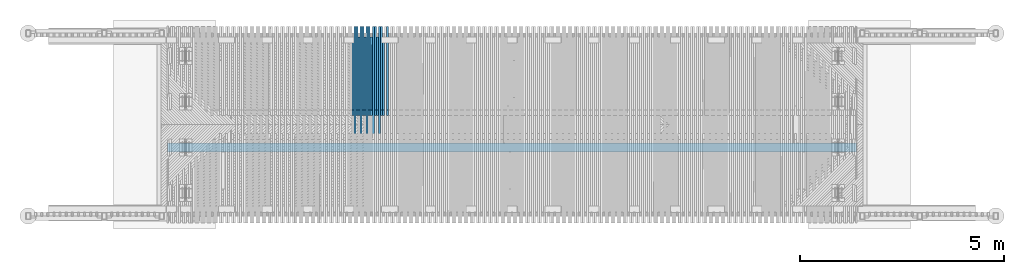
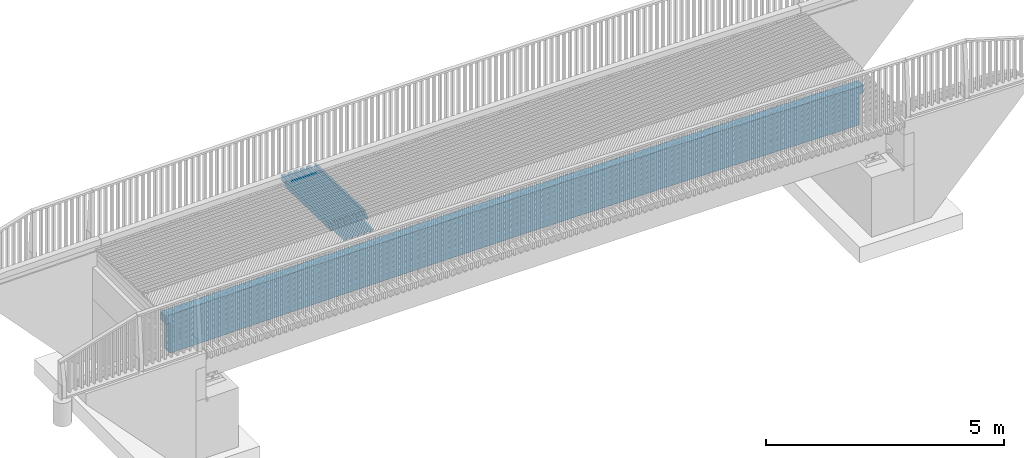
# One storey, part 25 of 47: 18 beams.
"""IFC2X3 building model written with IfcOpenShell, lengths in millimetres."""

import ifcopenshell
import ifcopenshell.guid

model = None  # the IFC model being written
_history = None  # IfcOwnerHistory: only IFC2X3 demands one
_inside = {}  # id of a spatial element -> (the spatial element, [elements in it])
_under = {}  # id of a project, library or spatial element -> (it, [spatial elements below it])
_declared = {}  # id of a project -> (the project, [libraries it declares])
_typed = {}  # id of a type object -> (the type object, [elements of that type])
_made_of = {}  # id of a material, layer set ... -> (it, [elements and type objects made of it])


def new_model(schema):
    """Start an empty IFC model of exactly this schema.

    Asked for "IFC4X3", IfcOpenShell would pick the latest addendum, in which some entities
    have other attributes; the version numbers below select the first issue.
    IFC2X3 requires an IfcOwnerHistory on every rooted entity: one is made here for all.
    """
    global model, _history
    if schema == "IFC4X3":
        model = ifcopenshell.file(schema_version=(4, 3, 0, 0))
    else:
        model = ifcopenshell.file(schema=schema)
    _inside.clear()
    _under.clear()
    _declared.clear()
    _typed.clear()
    _made_of.clear()
    _history = None
    if model.schema == "IFC2X3":
        org = make("IfcOrganization", Name="unknown")
        user = make(
            "IfcPersonAndOrganization",
            ThePerson=make("IfcPerson", FamilyName="unknown"),
            TheOrganization=org,
        )
        app = make(
            "IfcApplication",
            ApplicationDeveloper=org,
            Version="unknown",
            ApplicationFullName="unknown",
            ApplicationIdentifier="unknown",
        )
        _history = make(
            "IfcOwnerHistory",
            OwningUser=user,
            OwningApplication=app,
            ChangeAction="ADDED",
            CreationDate=0,
        )
    return model


def make(cls, **values):
    """One entity of the class cls with the attributes given. An attribute that is None is left unset."""
    return model.create_entity(
        cls, **{name: value for name, value in values.items() if value is not None}
    )


def rooted(cls, **values):
    """An entity with a GlobalId (a new one), such as an element, a storey or a relation."""
    return make(cls, GlobalId=ifcopenshell.guid.new(), OwnerHistory=_history, **values)


def si_unit(unit_type, name, prefix=None):
    """IfcSIUnit, for example si_unit("LENGTHUNIT", "METRE", prefix="MILLI")."""
    return make("IfcSIUnit", UnitType=unit_type, Prefix=prefix, Name=name)


def assignment(units):
    """IfcUnitAssignment: the units of a project."""
    return None if units is None else make("IfcUnitAssignment", Units=units)


def point(xyz):
    """IfcCartesianPoint."""
    return None if xyz is None else make("IfcCartesianPoint", Coordinates=xyz)


def direction(xyz):
    """IfcDirection."""
    return None if xyz is None else make("IfcDirection", DirectionRatios=xyz)


def frame(location, z_axis=None, x_axis=None):
    """IfcAxis2Placement3D, a coordinate frame: its origin and axes. An axis left out is left unset."""
    return make(
        "IfcAxis2Placement3D",
        Location=point(location),
        Axis=direction(z_axis),
        RefDirection=direction(x_axis),
    )


def origin_with_axes():
    """The frame at (0, 0, 0) with the z axis (0, 0, 1) and the x axis (1, 0, 0) written out."""
    return frame((0.0, 0.0, 0.0), z_axis=(0.0, 0.0, 1.0), x_axis=(1.0, 0.0, 0.0))


def place(relative_to, where):
    """IfcLocalPlacement: puts the frame where relative to a parent placement (None: the world)."""
    return make(
        "IfcLocalPlacement", PlacementRelTo=relative_to, RelativePlacement=where
    )


def context(
    kind, dimensions, precision=None, world=None, true_north=None, identifier=None
):
    """IfcGeometricRepresentationContext, for example the 3D "Model" context."""
    return make(
        "IfcGeometricRepresentationContext",
        ContextIdentifier=identifier,
        ContextType=kind,
        CoordinateSpaceDimension=dimensions,
        Precision=precision,
        WorldCoordinateSystem=world,
        TrueNorth=true_north,
    )


def subcontext(parent, identifier, kind, view, scale=None):
    """IfcGeometricRepresentationSubContext, for example "Body" below "Model"."""
    return make(
        "IfcGeometricRepresentationSubContext",
        ContextIdentifier=identifier,
        ContextType=kind,
        ParentContext=parent,
        TargetScale=scale,
        TargetView=view,
    )


def project(units=None, contexts=None):
    """IfcProject with its units and contexts."""
    return rooted(
        "IfcProject",
        Name="project",
        RepresentationContexts=contexts,
        UnitsInContext=assignment(units),
    )


def spatial(cls, under=None, at=None, **own):
    """A site, building, storey or space (cls), placed at a placement, below another one or the project."""
    s = rooted(cls, ObjectPlacement=at, **own)
    if under is not None:
        _under.setdefault(under.id(), (under, []))[1].append(s)
    return s


def faces_of(points, faces, orient=None, outer=None):
    """IfcFace entities. A face is a list of loops; a loop is a list of indices into points, from 0.

    orient and outer hold one flag for each loop. By default every Orientation is true, the
    first loop of a face is its IfcFaceOuterBound and the others are IfcFaceBound.
    """
    made = []
    for i, loops in enumerate(faces):
        bounds = []
        for j, loop in enumerate(loops):
            is_outer = j == 0 if outer is None else outer[i][j]
            bounds.append(
                make(
                    "IfcFaceOuterBound" if is_outer else "IfcFaceBound",
                    Bound=make("IfcPolyLoop", Polygon=[points[k] for k in loop]),
                    Orientation=True if orient is None else orient[i][j],
                )
            )
        made.append(make("IfcFace", Bounds=bounds))
    return made


def faceted_brep(points, faces, orient=None, outer=None, voids=None):
    """IfcFacetedBrep: a solid bounded by flat faces; with voids (closed shells), ...WithVoids."""
    shared = [point(p) for p in points]
    hull = make("IfcClosedShell", CfsFaces=faces_of(shared, faces, orient, outer))
    if voids is None:
        return make("IfcFacetedBrep", Outer=hull)
    return make(
        "IfcFacetedBrepWithVoids",
        Outer=hull,
        Voids=[
            make(cls, CfsFaces=faces_of(shared, fs, o, b)) for cls, fs, o, b in voids
        ],
    )


def shape(context_of_items, identifier, shape_type, items):
    """IfcShapeRepresentation: the items that make up one representation, for example the "Body"."""
    return make(
        "IfcShapeRepresentation",
        ContextOfItems=context_of_items,
        RepresentationIdentifier=identifier,
        RepresentationType=shape_type,
        Items=items,
    )


def material(Name=None, Category=None):
    """IfcMaterial."""
    return make("IfcMaterial", Name=Name, Category=Category)


def made_of(thing, what):
    """Note that an element or type object is made of a material, layer set ...; save() writes the relation."""
    if what is not None:
        _made_of.setdefault(what.id(), (what, []))[1].append(thing)
    return thing


def type_object(cls, material=None, **own):
    """A type object (cls), such as IfcWallType, which elements share."""
    return made_of(rooted(cls, **own), material)


def element(
    cls,
    number,
    at=None,
    inside=None,
    cuts=None,
    type_object=None,
    material=None,
    context=None,
    identifier="Body",
    shape_type=None,
    held_by="IfcProductDefinitionShape",
    body=None,
    shapes=None,
    **own,
):
    """One element of the class cls, such as IfcWall. Its Tag is "e" and its number.

    at: its placement. inside: the storey or other place that contains it. cuts: it is an
    opening in that element (IfcRelVoidsElement). A single representation is given by context,
    identifier, shape_type and body (its items); several are given by shapes. held_by: the class
    of the entity that holds the representations. save() writes the other relations.
    """
    e = rooted(cls, Tag="e%d" % number, ObjectPlacement=at, **own)
    if body is not None:
        shapes = [shape(context, identifier, shape_type, body)]
    if shapes is not None:
        e.Representation = make(held_by, Representations=shapes)
    if inside is not None:
        _inside.setdefault(inside.id(), (inside, []))[1].append(e)
    if cuts is not None:
        rooted(
            "IfcRelVoidsElement", RelatingBuildingElement=cuts, RelatedOpeningElement=e
        )
    if type_object is not None:
        _typed.setdefault(type_object.id(), (type_object, []))[1].append(e)
    return made_of(e, material)


def aggregate(whole, parts):
    """IfcRelAggregates: a whole, such as a stair, and the parts it consists of."""
    return rooted("IfcRelAggregates", RelatingObject=whole, RelatedObjects=parts)


def save(model, path):
    """Write the relations noted so far, then the file.

    IfcRelAggregates (storeys below a building ...), IfcRelContainedInSpatialStructure (elements
    in a storey), IfcRelDefinesByType, IfcRelAssociatesMaterial and IfcRelDeclares: one each for
    every whole, place, type object, material and project.
    """
    for whole, parts in _under.values():
        aggregate(whole, parts)
    for where, things in _inside.values():
        rooted(
            "IfcRelContainedInSpatialStructure",
            RelatedElements=things,
            RelatingStructure=where,
        )
    for kind, things in _typed.values():
        rooted("IfcRelDefinesByType", RelatedObjects=things, RelatingType=kind)
    for what, things in _made_of.values():
        rooted("IfcRelAssociatesMaterial", RelatedObjects=things, RelatingMaterial=what)
    for by, libraries in _declared.values():
        rooted("IfcRelDeclares", RelatingContext=by, RelatedDefinitions=libraries)
    model.write(path)


model = new_model("IFC2X3")

# Units and contexts
model_context = context("Model", 3, precision=1e-05, world=origin_with_axes())
body_context = subcontext(model_context, "Body", "Model", "MODEL_VIEW")
ifc_project = project(units=[si_unit("LENGTHUNIT", "METRE", prefix="MILLI"), si_unit("AREAUNIT", "SQUARE_METRE"), si_unit("VOLUMEUNIT", "CUBIC_METRE"), si_unit("MASSUNIT", "GRAM", prefix="KILO"), si_unit("TIMEUNIT", "SECOND"), si_unit("PLANEANGLEUNIT", "RADIAN"), si_unit("SOLIDANGLEUNIT", "STERADIAN"), si_unit("THERMODYNAMICTEMPERATUREUNIT", "DEGREE_CELSIUS"), si_unit("LUMINOUSINTENSITYUNIT", "LUMEN")], contexts=[model_context])

# Site, building, storey
site_placement = place(None, origin_with_axes())
site = spatial("IfcSite", under=ifc_project, at=site_placement, Name="Undefined", CompositionType="ELEMENT")
building_placement = place(site_placement, origin_with_axes())
building = spatial("IfcBuilding", under=site, at=building_placement, Name="Undefined", CompositionType="ELEMENT")
storey_placement = place(building_placement, origin_with_axes())
storey = spatial("IfcBuildingStorey", under=building, at=storey_placement, Name="Undefined", CompositionType="ELEMENT", Elevation=0.0)

# Beams
ifc_material = material(Name="TIMBER/Timber_Undefined")
beam_type_1 = type_object("IfcBeamType", Name="150*50", PredefinedType="NOTDEFINED")
beam_1_placement = place(storey_placement, frame((4199.27249879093, 64771.4438078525, 3075.98999491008), z_axis=(-0.00630998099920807, 0.0199960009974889, 0.99978014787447), x_axis=(-0.000126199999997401, -0.999800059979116, 0.0199956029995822)))
element("IfcBeam", 1, at=beam_1_placement, inside=storey, type_object=beam_type_1, material=ifc_material, Name="BEAM", ObjectType="150*50", context=body_context, shape_type="Brep", body=[
    faceted_brep([(6.18456397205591e-09, -24.9999999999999, -75.0000000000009), (-6.1918399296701e-09, -24.9999999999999, 74.9999999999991), (-6.19911588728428e-09, 25.0, 75.0), (6.18456397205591e-09, 24.9999999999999, -75.0), (2186.42645864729, 25.0, -75.0), (2186.42645915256, -25.0000000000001, -75.0), (2047.96936034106, -25.0000000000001, 75.0), (2047.96935975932, 25.0, 75.0)], [[[0, 1, 2, 3]], [[0, 3, 4, 5]], [[1, 0, 5, 6]], [[2, 1, 6, 7]], [[3, 2, 7, 4]], [[6, 5, 4, 7]]]),
])
beam_2_placement = place(storey_placement, frame((4099.22195227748, 64513.4953923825, 3080.50903385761), z_axis=(-0.0064760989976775, 0.0199960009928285, 0.999779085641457), x_axis=(-0.000129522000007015, -0.999800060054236, 0.0199955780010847)))
element("IfcBeam", 2, at=beam_2_placement, inside=storey, type_object=beam_type_1, material=ifc_material, Name="BEAM", ObjectType="150*50", context=body_context, shape_type="Brep", body=[
    faceted_brep([(6.18456397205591e-09, -24.9999999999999, -75.0000000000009), (-6.1918399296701e-09, -24.9999999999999, 74.9999999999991), (-6.19911588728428e-09, 25.0, 75.0), (6.18456397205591e-09, 24.9999999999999, -75.0), (1928.42646506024, 25.0, -75.0), (1928.4264649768, -24.9999999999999, -75.0), (1789.96936577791, -24.9999999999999, 75.0), (1789.96936586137, 25.0, 75.0000000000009)], [[[0, 1, 2, 3]], [[0, 3, 4, 5]], [[1, 0, 5, 6]], [[2, 1, 6, 7]], [[3, 2, 7, 4]], [[6, 5, 4, 7]]]),
])
beam_3_placement = place(storey_placement, frame((4149.23407481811, 64771.443807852, 3075.6733007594), z_axis=(-0.0064760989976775, 0.0199960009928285, 0.999779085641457), x_axis=(-0.000129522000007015, -0.999800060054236, 0.0199955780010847)))
element("IfcBeam", 3, at=beam_3_placement, inside=storey, type_object=beam_type_1, material=ifc_material, Name="BEAM", ObjectType="150*50", context=body_context, shape_type="Brep", body=[
    faceted_brep([(6.18456397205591e-09, -24.9999999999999, -75.0000000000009), (6.18456397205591e-09, 24.9999999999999, -75.0), (2633.00494983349, 25.0000000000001, -75.0000000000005), (2633.00495050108, -24.9999999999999, -75.0000000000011), (-6.1918399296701e-09, -24.9999999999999, 74.9999999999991), (-6.19911588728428e-09, 25.0, 75.0), (2408.42506497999, 24.9999999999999, 75.0), (2768.5924870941, 25.0, 60.5875375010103), (2768.59248707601, -25.0, 60.5875366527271), (2408.4250638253, -25.0, 74.9999999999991)], [[[0, 1, 2, 3]], [[0, 4, 5, 1]], [[2, 1, 5, 6, 7]], [[3, 2, 7, 8]], [[4, 0, 3, 8, 9]], [[5, 4, 9, 6]], [[8, 7, 6, 9]]]),
])
beam_4_placement = place(storey_placement, frame((4349.29838921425, 64771.4438078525, 3076.91856599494), z_axis=(-0.00606080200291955, 0.0199960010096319, 0.999781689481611), x_axis=(-0.000121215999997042, -0.999800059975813, 0.0199956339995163)))
element("IfcBeam", 4, at=beam_4_placement, inside=storey, type_object=beam_type_1, material=ifc_material, Name="BEAM", ObjectType="150*50", context=body_context, shape_type="Brep", body=[
    faceted_brep([(6.18456397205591e-09, -24.9999999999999, -75.0000000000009), (-6.1918399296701e-09, -24.9999999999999, 74.9999999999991), (-6.19911588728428e-09, 25.0, 75.0), (6.18456397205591e-09, 24.9999999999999, -75.0), (2186.42645864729, 25.0, -75.0), (2186.42645915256, -25.0000000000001, -75.0), (2047.96936034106, -25.0000000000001, 75.0), (2047.96935975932, 25.0, 75.0)], [[[0, 1, 2, 3]], [[0, 3, 4, 5]], [[1, 0, 5, 6]], [[2, 1, 6, 7]], [[3, 2, 7, 4]], [[6, 5, 4, 7]]]),
])
beam_5_placement = place(storey_placement, frame((4249.24897210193, 64513.4953923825, 3081.46254070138), z_axis=(-0.0062269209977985, 0.0199960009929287, 0.999780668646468), x_axis=(-0.000124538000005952, -0.999800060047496, 0.0199956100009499)))
element("IfcBeam", 5, at=beam_5_placement, inside=storey, type_object=beam_type_1, material=ifc_material, Name="BEAM", ObjectType="150*50", context=body_context, shape_type="Brep", body=[
    faceted_brep([(6.18456397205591e-09, -24.9999999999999, -75.0000000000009), (-6.1918399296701e-09, -24.9999999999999, 74.9999999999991), (-6.19911588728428e-09, 25.0, 75.0), (6.18456397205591e-09, 24.9999999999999, -75.0), (1928.42646506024, 25.0, -75.0), (1928.4264649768, -24.9999999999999, -75.0), (1789.96936577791, -24.9999999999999, 75.0), (1789.96936586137, 25.0, 75.0000000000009)], [[[0, 1, 2, 3]], [[0, 3, 4, 5]], [[1, 0, 5, 6]], [[2, 1, 6, 7]], [[3, 2, 7, 4]], [[6, 5, 4, 7]]]),
])
beam_6_placement = place(storey_placement, frame((4299.25988786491, 64771.443807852, 3076.61434308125), z_axis=(-0.0062269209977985, 0.0199960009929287, 0.999780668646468), x_axis=(-0.000124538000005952, -0.999800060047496, 0.0199956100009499)))
element("IfcBeam", 6, at=beam_6_placement, inside=storey, type_object=beam_type_1, material=ifc_material, Name="BEAM", ObjectType="150*50", context=body_context, shape_type="Brep", body=[
    faceted_brep([(6.18456397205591e-09, -24.9999999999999, -75.0000000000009), (6.18456397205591e-09, 24.9999999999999, -75.0), (2633.00494983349, 25.0000000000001, -75.0000000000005), (2633.00495050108, -24.9999999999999, -75.0000000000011), (-6.1918399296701e-09, -24.9999999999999, 74.9999999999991), (-6.19911588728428e-09, 25.0, 75.0), (2408.42506497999, 24.9999999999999, 75.0), (2768.5924870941, 25.0, 60.5875375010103), (2768.59248707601, -25.0, 60.5875366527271), (2408.4250638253, -25.0, 74.9999999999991)], [[[0, 1, 2, 3]], [[0, 4, 5, 1]], [[2, 1, 5, 6, 7]], [[3, 2, 7, 8]], [[4, 0, 3, 8, 9]], [[5, 4, 9, 6]], [[8, 7, 6, 9]]]),
])
beam_7_placement = place(storey_placement, frame((4499.32450640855, 64771.4438078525, 3077.80974564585), z_axis=(-0.00581162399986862, 0.0199960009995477, 0.999783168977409), x_axis=(-0.000116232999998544, -0.999800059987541, 0.0199956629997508)))
element("IfcBeam", 7, at=beam_7_placement, inside=storey, type_object=beam_type_1, material=ifc_material, Name="BEAM", ObjectType="150*50", context=body_context, shape_type="Brep", body=[
    faceted_brep([(6.18456397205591e-09, -24.9999999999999, -75.0000000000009), (-6.1918399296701e-09, -24.9999999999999, 74.9999999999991), (-6.19911588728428e-09, 25.0, 75.0), (6.18456397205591e-09, 24.9999999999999, -75.0), (2186.42645864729, 25.0, -75.0), (2186.42645915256, -25.0000000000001, -75.0), (2047.96936034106, -25.0000000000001, 75.0), (2047.96935975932, 25.0, 75.0)], [[[0, 1, 2, 3]], [[0, 3, 4, 5]], [[1, 0, 5, 6]], [[2, 1, 6, 7]], [[3, 2, 7, 4]], [[6, 5, 4, 7]]]),
])
beam_8_placement = place(storey_placement, frame((4399.27622491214, 64513.4953923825, 3082.378655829), z_axis=(-0.0059777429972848, 0.0199960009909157, 0.999782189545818), x_axis=(-0.000119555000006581, -0.999800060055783, 0.0199956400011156)))
element("IfcBeam", 8, at=beam_8_placement, inside=storey, type_object=beam_type_1, material=ifc_material, Name="BEAM", ObjectType="150*50", context=body_context, shape_type="Brep", body=[
    faceted_brep([(6.18456397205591e-09, -24.9999999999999, -75.0000000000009), (-6.1918399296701e-09, -24.9999999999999, 74.9999999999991), (-6.19911588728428e-09, 25.0, 75.0), (6.18456397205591e-09, 24.9999999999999, -75.0), (1928.42646506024, 25.0, -75.0), (1928.4264649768, -24.9999999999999, -75.0), (1789.96936577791, -24.9999999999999, 75.0), (1789.96936586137, 25.0, 75.0000000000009)], [[[0, 1, 2, 3]], [[0, 3, 4, 5]], [[1, 0, 5, 6]], [[2, 1, 6, 7]], [[3, 2, 7, 4]], [[6, 5, 4, 7]]]),
])
beam_9_placement = place(storey_placement, frame((4449.28593079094, 64771.443807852, 3077.51799398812), z_axis=(-0.0059777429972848, 0.0199960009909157, 0.999782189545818), x_axis=(-0.000119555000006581, -0.999800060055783, 0.0199956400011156)))
element("IfcBeam", 9, at=beam_9_placement, inside=storey, type_object=beam_type_1, material=ifc_material, Name="BEAM", ObjectType="150*50", context=body_context, shape_type="Brep", body=[
    faceted_brep([(6.18456397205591e-09, -24.9999999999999, -75.0000000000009), (6.18456397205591e-09, 24.9999999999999, -75.0), (2633.00494983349, 25.0000000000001, -75.0000000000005), (2633.00495050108, -24.9999999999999, -75.0000000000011), (-6.1918399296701e-09, -24.9999999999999, 74.9999999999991), (-6.19911588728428e-09, 25.0, 75.0), (2408.42506497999, 24.9999999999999, 75.0), (2768.5924870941, 25.0, 60.5875375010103), (2768.59248707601, -25.0, 60.5875366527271), (2408.4250638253, -25.0, 74.9999999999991)], [[[0, 1, 2, 3]], [[0, 4, 5, 1]], [[2, 1, 5, 6, 7]], [[3, 2, 7, 8]], [[4, 0, 3, 8, 9]], [[5, 4, 9, 6]], [[8, 7, 6, 9]]]),
])
beam_10_placement = place(storey_placement, frame((4649.35084105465, 64771.4438078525, 3078.66353380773), z_axis=(-0.0055624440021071, 0.0199960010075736, 0.9997845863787), x_axis=(-0.000111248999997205, -0.999800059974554, 0.0199956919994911)))
element("IfcBeam", 10, at=beam_10_placement, inside=storey, type_object=beam_type_1, material=ifc_material, Name="BEAM", ObjectType="150*50", context=body_context, shape_type="Brep", body=[
    faceted_brep([(6.18456397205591e-09, -24.9999999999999, -75.0000000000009), (-6.1918399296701e-09, -24.9999999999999, 74.9999999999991), (-6.19911588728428e-09, 25.0, 75.0), (6.18456397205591e-09, 24.9999999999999, -75.0), (2186.42645864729, 25.0, -75.0), (2186.42645915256, -25.0000000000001, -75.0), (2047.96936034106, -25.0000000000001, 75.0), (2047.96935975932, 25.0, 75.0)], [[[0, 1, 2, 3]], [[0, 3, 4, 5]], [[1, 0, 5, 6]], [[2, 1, 6, 7]], [[3, 2, 7, 4]], [[6, 5, 4, 7]]]),
])
beam_11_placement = place(storey_placement, frame((4549.30370138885, 64513.4953923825, 3083.25737918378), z_axis=(-0.00572856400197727, 0.0199960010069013, 0.999783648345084), x_axis=(-0.000114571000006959, -0.999800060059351, 0.019995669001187)))
element("IfcBeam", 11, at=beam_11_placement, inside=storey, type_object=beam_type_1, material=ifc_material, Name="BEAM", ObjectType="150*50", context=body_context, shape_type="Brep", body=[
    faceted_brep([(6.18456397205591e-09, -24.9999999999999, -75.0000000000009), (-6.1918399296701e-09, -24.9999999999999, 74.9999999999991), (-6.19911588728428e-09, 25.0, 75.0), (6.18456397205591e-09, 24.9999999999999, -75.0), (1928.42646506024, 25.0, -75.0), (1928.4264649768, -24.9999999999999, -75.0), (1789.96936577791, -24.9999999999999, 75.0), (1789.96936586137, 25.0, 75.0000000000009)], [[[0, 1, 2, 3]], [[0, 3, 4, 5]], [[1, 0, 5, 6]], [[2, 1, 6, 7]], [[3, 2, 7, 4]], [[6, 5, 4, 7]]]),
])
beam_12_placement = place(storey_placement, frame((4599.31219427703, 64771.443807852, 3078.38425342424), z_axis=(-0.00572856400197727, 0.0199960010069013, 0.999783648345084), x_axis=(-0.000114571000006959, -0.999800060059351, 0.019995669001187)))
element("IfcBeam", 12, at=beam_12_placement, inside=storey, type_object=beam_type_1, material=ifc_material, Name="BEAM", ObjectType="150*50", context=body_context, shape_type="Brep", body=[
    faceted_brep([(6.18456397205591e-09, -24.9999999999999, -75.0000000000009), (6.18456397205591e-09, 24.9999999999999, -75.0), (2633.00494983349, 25.0000000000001, -75.0000000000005), (2633.00495050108, -24.9999999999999, -75.0000000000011), (-6.1918399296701e-09, -24.9999999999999, 74.9999999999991), (-6.19911588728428e-09, 25.0, 75.0), (2408.42506497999, 24.9999999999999, 75.0), (2768.5924870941, 25.0, 60.5875375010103), (2768.59248707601, -25.0, 60.5875366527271), (2408.4250638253, -25.0, 74.9999999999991)], [[[0, 1, 2, 3]], [[0, 4, 5, 1]], [[2, 1, 5, 6, 7]], [[3, 2, 7, 8]], [[4, 0, 3, 8, 9]], [[5, 4, 9, 6]], [[8, 7, 6, 9]]]),
])
beam_13_placement = place(storey_placement, frame((4799.37738383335, 64771.4438078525, 3079.47993042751), z_axis=(-0.00531326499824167, 0.0199960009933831, 0.999785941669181), x_axis=(-0.000106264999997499, -0.999800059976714, 0.0199957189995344)))
element("IfcBeam", 13, at=beam_13_placement, inside=storey, type_object=beam_type_1, material=ifc_material, Name="BEAM", ObjectType="150*50", context=body_context, shape_type="Brep", body=[
    faceted_brep([(6.18456397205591e-09, -24.9999999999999, -75.0000000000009), (-6.1918399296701e-09, -24.9999999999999, 74.9999999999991), (-6.19911588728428e-09, 25.0, 75.0), (6.18456397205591e-09, 24.9999999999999, -75.0), (2186.42645864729, 25.0, -75.0), (2186.42645915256, -25.0000000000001, -75.0), (2047.96936034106, -25.0000000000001, 75.0), (2047.96935975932, 25.0, 75.0)], [[[0, 1, 2, 3]], [[0, 3, 4, 5]], [[1, 0, 5, 6]], [[2, 1, 6, 7]], [[3, 2, 7, 4]], [[6, 5, 4, 7]]]),
])
beam_14_placement = place(storey_placement, frame((4699.3313922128, 64513.4953923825, 3084.09871071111), z_axis=(-0.00547938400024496, 0.0199960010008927, 0.999785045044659), x_axis=(-0.000109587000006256, -0.999800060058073, 0.0199956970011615)))
element("IfcBeam", 14, at=beam_14_placement, inside=storey, type_object=beam_type_1, material=ifc_material, Name="BEAM", ObjectType="150*50", context=body_context, shape_type="Brep", body=[
    faceted_brep([(6.18456397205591e-09, -24.9999999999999, -75.0000000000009), (-6.1918399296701e-09, -24.9999999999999, 74.9999999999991), (-6.19911588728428e-09, 25.0, 75.0), (6.18456397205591e-09, 24.9999999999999, -75.0), (1928.42646506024, 25.0, -75.0), (1928.4264649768, -24.9999999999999, -75.0), (1789.96936577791, -24.9999999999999, 75.0), (1789.96936586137, 25.0, 75.0000000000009)], [[[0, 1, 2, 3]], [[0, 3, 4, 5]], [[1, 0, 5, 6]], [[2, 1, 6, 7]], [[3, 2, 7, 4]], [[6, 5, 4, 7]]]),
])
beam_15_placement = place(storey_placement, frame((4749.33866900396, 64771.443807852, 3079.21312133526), z_axis=(-0.00547938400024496, 0.0199960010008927, 0.999785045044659), x_axis=(-0.000109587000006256, -0.999800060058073, 0.0199956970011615)))
element("IfcBeam", 15, at=beam_15_placement, inside=storey, type_object=beam_type_1, material=ifc_material, Name="BEAM", ObjectType="150*50", context=body_context, shape_type="Brep", body=[
    faceted_brep([(6.18456397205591e-09, -24.9999999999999, -75.0000000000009), (6.18456397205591e-09, 24.9999999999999, -75.0), (2633.00494983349, 25.0000000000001, -75.0000000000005), (2633.00495050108, -24.9999999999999, -75.0000000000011), (-6.1918399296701e-09, -24.9999999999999, 74.9999999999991), (-6.19911588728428e-09, 25.0, 75.0), (2408.42506497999, 24.9999999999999, 75.0), (2768.5924870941, 25.0, 60.5875375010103), (2768.59248707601, -25.0, 60.5875366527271), (2408.4250638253, -25.0, 74.9999999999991)], [[[0, 1, 2, 3]], [[0, 4, 5, 1]], [[2, 1, 5, 6, 7]], [[3, 2, 7, 8]], [[4, 0, 3, 8, 9]], [[5, 4, 9, 6]], [[8, 7, 6, 9]]]),
])
beam_16_placement = place(storey_placement, frame((4949.40412542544, 64771.4438078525, 3080.25893545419), z_axis=(-0.00506408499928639, 0.0199960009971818, 0.999787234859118), x_axis=(-0.000101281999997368, -0.999800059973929, 0.0199957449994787)))
element("IfcBeam", 16, at=beam_16_placement, inside=storey, type_object=beam_type_1, material=ifc_material, Name="BEAM", ObjectType="150*50", context=body_context, shape_type="Brep", body=[
    faceted_brep([(6.18456397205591e-09, -24.9999999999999, -75.0000000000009), (-6.1918399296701e-09, -24.9999999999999, 74.9999999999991), (-6.19911588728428e-09, 25.0, 75.0), (6.18456397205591e-09, 24.9999999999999, -75.0), (2186.42645864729, 25.0, -75.0), (2186.42645915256, -25.0000000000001, -75.0), (2047.96936034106, -25.0000000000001, 75.0), (2047.96935975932, 25.0, 75.0)], [[[0, 1, 2, 3]], [[0, 3, 4, 5]], [[1, 0, 5, 6]], [[2, 1, 6, 7]], [[3, 2, 7, 4]], [[6, 5, 4, 7]]]),
])
beam_17_placement = place(storey_placement, frame((4849.3592880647, 64513.4953923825, 3084.9026503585), z_axis=(-0.00523020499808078, 0.0199960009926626, 0.999786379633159), x_axis=(-0.000104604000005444, -0.999800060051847, 0.0199957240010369)))
element("IfcBeam", 17, at=beam_17_placement, inside=storey, type_object=beam_type_1, material=ifc_material, Name="BEAM", ObjectType="150*50", context=body_context, shape_type="Brep", body=[
    faceted_brep([(6.18456397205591e-09, -24.9999999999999, -75.0000000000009), (-6.1918399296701e-09, -24.9999999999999, 74.9999999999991), (-6.19911588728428e-09, 25.0, 75.0), (6.18456397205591e-09, 24.9999999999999, -75.0), (1928.42646506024, 25.0, -75.0), (1928.4264649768, -24.9999999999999, -75.0), (1789.96936577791, -24.9999999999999, 75.0), (1789.96936586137, 25.0, 75.0000000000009)], [[[0, 1, 2, 3]], [[0, 3, 4, 5]], [[1, 0, 5, 6]], [[2, 1, 6, 7]], [[3, 2, 7, 4]], [[6, 5, 4, 7]]]),
])
beam_type_2 = type_object("IfcBeamType", Name="990*215", PredefinedType="NOTDEFINED")
beam_18_placement = place(storey_placement, frame((243.613169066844, 61805.0, 2502.11879463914), z_axis=(0.0, 0.0, 1.0), x_axis=(1.0, 0.0, 0.0)))
element("IfcBeam", 18, at=beam_18_placement, inside=storey, type_object=beam_type_2, material=ifc_material, Name="PALKKI", ObjectType="990*215", context=body_context, shape_type="Brep", body=[
    faceted_brep([(16106.3868309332, 107.5, -494.790894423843), (16106.3868309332, -107.5, -494.790894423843), (16080.5342107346, -107.5, -494.790894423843), (15793.4597682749, -107.5, -494.790894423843), (15506.3868309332, -107.5, -494.958794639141), (15506.3868309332, 107.5, -494.958794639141), (15793.4597682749, 107.5, -494.790894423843), (16080.5342107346, 107.5, -494.790894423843), (16106.3868309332, 107.499999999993, 285.209105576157), (16106.3868309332, -107.5, 285.209105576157), (16206.3868309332, 107.499999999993, 285.209105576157), (16206.3868309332, -107.5, 285.209105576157), (16206.3868309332, 107.5, 485.682039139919), (16206.3868309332, -107.5, 485.682039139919), (-627.370013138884, 107.5, 486.625216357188), (-627.370013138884, -107.5, 486.625216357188), (-316.879497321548, -107.5, 490.87213125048), (-316.879497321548, 107.5, 490.87213125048), (-693.613169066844, -107.5, 485.684940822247), (-693.613169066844, -107.5, 285.209105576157), (-624.563039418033, -107.5, 285.209105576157), (-693.613169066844, 107.5, 485.684940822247), (-693.613169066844, 107.499999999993, 285.209105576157), (-624.563039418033, 107.5, 285.209105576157), (-593.613169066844, 107.500000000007, 285.209105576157), (-593.613169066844, -107.5, 285.209105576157), (-593.613169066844, 107.499999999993, -494.790894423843), (-593.613169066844, -107.5, -494.790894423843), (-303.651924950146, -107.5, -494.790894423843), (-6.38683093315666, -107.5, 494.958794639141), (6.38683093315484, -107.5, -494.958794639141), (-6.38683093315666, 107.5, 494.958794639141), (6.38683093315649, 107.5, -494.790894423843), (304.107903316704, 107.5, 498.885205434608), (316.370645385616, 107.5, -491.038844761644), (-303.651924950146, 107.5, -494.790894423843), (316.370645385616, -107.5, -491.038844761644), (304.107903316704, -107.5, 498.885205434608), (614.604622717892, -107.5, 502.651362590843), (614.604622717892, 107.5, 502.651362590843), (626.356441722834, 107.5, -487.278884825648), (626.356441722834, -107.5, -487.278884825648), (936.344137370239, -107.5, -483.678915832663), (925.103244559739, -107.5, 506.257265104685), (925.103244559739, 107.5, 506.257265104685), (936.344137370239, 107.5, -483.678915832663), (1246.33364975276, 107.5, -480.238938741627), (1246.33364975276, -107.5, -480.238938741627), (1235.60368613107, -107.5, 509.702912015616), (1235.60368613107, 107.5, 509.702912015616), (1546.10586472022, 107.5, 512.988302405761), (1556.32489629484, 107.5, -476.958954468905), (1556.32489629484, -107.5, -476.958954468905), (1546.10586472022, -107.5, 512.988302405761), (1856.60969761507, -107.5, 516.113435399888), (1856.60969761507, 107.5, 516.113435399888), (1866.31779442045, 107.5, -473.838963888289), (1866.31779442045, -107.5, -473.838963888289), (2176.31226155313, -107.5, -470.878967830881), (2167.11510210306, -107.5, 519.078310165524), (2167.11510210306, 107.5, 519.078310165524), (2176.31226155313, 107.5, -470.878967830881), (2486.30821511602, 107.5, -468.078967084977), (2486.30821511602, -107.5, -468.078967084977), (2477.6219954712, -107.5, 521.882925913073), (2477.6219954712, 107.5, 521.882925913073), (2788.13029500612, 107.5, 524.527281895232), (2796.30557253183, 107.5, -465.438962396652), (2796.30557253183, -107.5, -465.438962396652), (2788.13029500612, -107.5, 524.527281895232), (3098.63991799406, -107.5, 527.011377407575), (3098.63991799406, 107.5, 527.011377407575), (3106.30425122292, 107.5, -462.958954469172), (3106.30425122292, -107.5, -462.958954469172), (3416.30416861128, -107.5, -460.638943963), (3409.15078172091, -107.5, 529.335211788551), (3409.15078172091, 107.5, 529.335211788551), (3416.30416861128, 107.5, -460.638943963), (3726.30524211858, 107.5, -458.478931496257), (3726.30524211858, -107.5, -458.478931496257), (3719.66280347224, -107.5, 531.49878441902), (3719.66280347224, 107.5, 531.49878441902), (4030.1759005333, 107.5, 533.502094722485), (4036.3073891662, 107.5, -456.478917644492), (4036.3073891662, -107.5, -456.478917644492), (4030.1759005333, -107.5, 533.502094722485), (4340.68999018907, -107.5, 535.345142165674), (4340.68999018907, 107.5, 535.345142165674), (4346.3105271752, 107.5, -454.638902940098), (4346.3105271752, -107.5, -454.638902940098), (4656.31457356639, -107.5, -452.958887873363), (4651.20498972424, -107.5, 537.027926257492), (4651.20498972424, 107.5, 537.027926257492), (4656.31457356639, 107.5, -452.958887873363), (4966.31944576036, 107.5, -451.438872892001), (4966.31944576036, -107.5, -451.438872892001), (4961.72081642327, -107.5, 538.550446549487), (4961.72081642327, 107.5, 538.550446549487), (5272.23738757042, 107.5, 539.912702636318), (5276.32506117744, 107.5, -450.078858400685), (5276.32506117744, -107.5, -450.078858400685), (5272.23738757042, -107.5, 539.912702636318), (5582.75462044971, -107.5, 541.114694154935), (5582.75462044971, 107.5, 541.114694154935), (5586.33133723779, 107.5, -448.878844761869), (5586.33133723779, -107.5, -448.878844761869), (5896.33819136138, -107.5, -447.838832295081), (5893.27243234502, -107.5, 542.156420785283), (5893.27243234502, 107.5, 542.156420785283), (5896.33819136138, 107.5, -447.838832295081), (6206.34554096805, 107.5, -446.958821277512), (6206.34554096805, -107.5, -446.958821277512), (6203.79074054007, -107.5, 543.037882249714), (6203.79074054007, 107.5, 543.037882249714), (6514.30946231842, 107.5, 543.759078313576), (6516.35330347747, 107.5, -446.238811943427), (6516.35330347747, -107.5, -446.238811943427), (6514.30946231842, -107.5, 543.759078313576), (6824.82851496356, -107.5, 544.320008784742), (6824.82851496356, 107.5, 544.320008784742), (6826.36139630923, 107.5, -445.678804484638), (6826.36139630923, -107.5, -445.678804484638), (7136.36973688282, -107.5, -445.278799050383), (7135.34781575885, -107.5, 544.720673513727), (7135.34781575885, 107.5, 544.720673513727), (7136.36973688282, 107.5, -445.278799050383), (7446.37824261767, 107.5, -445.038795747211), (7446.37824261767, -107.5, -445.038795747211), (7445.86728198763, -107.5, 544.961072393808), (7445.86728198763, 107.5, 544.961072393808), (7756.38683093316, 107.5, 545.041205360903), (7756.38683093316, 107.5, -444.958794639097), (7756.38683093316, -107.5, -444.958794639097), (7756.38683093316, -107.5, 545.041205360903), (8066.90637987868, -107.5, 544.961072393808), (8066.90637987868, 107.5, 544.961072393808), (8066.39541924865, 107.5, -445.038795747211), (8066.39541924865, -107.5, -445.038795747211), (8376.40392498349, -107.5, -445.278799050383), (8377.42584610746, -107.5, 544.720673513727), (8377.42584610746, 107.5, 544.720673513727), (8376.40392498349, 107.5, -445.278799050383), (8686.41226555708, 107.5, -445.678804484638), (8686.41226555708, -107.5, -445.678804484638), (8687.94514690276, -107.5, 544.320008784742), (8687.94514690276, 107.5, 544.320008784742), (8998.46419954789, 107.5, 543.759078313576), (8996.42035838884, 107.5, -446.238811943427), (8996.42035838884, -107.5, -446.238811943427), (8998.46419954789, -107.5, 543.759078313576), (9308.98292132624, -107.5, 543.037882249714), (9308.98292132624, 107.5, 543.037882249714), (9306.42812089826, 107.5, -446.958821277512), (9306.42812089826, -107.5, -446.958821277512), (9616.43547050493, -107.5, -447.838832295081), (9619.50122952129, -107.5, 542.156420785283), (9619.50122952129, 107.5, 542.156420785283), (9616.43547050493, 107.5, -447.838832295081), (9926.44232462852, 107.5, -448.878844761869), (9926.44232462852, -107.5, -448.878844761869), (9930.0190414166, -107.5, 541.114694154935), (9930.0190414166, 107.5, 541.114694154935), (10240.5362742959, 107.5, 539.912702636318), (10236.4486006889, 107.5, -450.078858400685), (10236.4486006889, -107.5, -450.078858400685), (10240.5362742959, -107.5, 539.912702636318), (10551.052845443, -107.5, 538.550446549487), (10551.052845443, 107.5, 538.550446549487), (10546.454216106, 107.5, -451.438872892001), (10546.454216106, -107.5, -451.438872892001), (10856.4590882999, -107.5, -452.958887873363), (10861.5686721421, -107.5, 537.027926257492), (10861.5686721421, 107.5, 537.027926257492), (10856.4590882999, 107.5, -452.958887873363), (11166.4631346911, 107.5, -454.638902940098), (11166.4631346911, -107.5, -454.638902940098), (11172.0836716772, -107.5, 535.345142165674), (11172.0836716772, 107.5, 535.345142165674), (11482.597761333, 107.5, 533.502094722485), (11476.4662727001, 107.5, -456.478917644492), (11476.4662727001, -107.5, -456.478917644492), (11482.597761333, -107.5, 533.502094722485), (11793.1108583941, -107.5, 531.49878441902), (11793.1108583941, 107.5, 531.49878441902), (11786.4684197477, 107.5, -458.478931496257), (11786.4684197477, -107.5, -458.478931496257), (12096.469493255, -107.5, -460.638943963), (12103.6228801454, -107.5, 529.335211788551), (12103.6228801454, 107.5, 529.335211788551), (12096.469493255, 107.5, -460.638943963), (12406.4694106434, 107.5, -462.958954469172), (12406.4694106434, -107.5, -462.958954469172), (12414.1337438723, -107.5, 527.011377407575), (12414.1337438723, 107.5, 527.011377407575), (12724.6433668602, 107.5, 524.527281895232), (12716.4680893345, 107.5, -465.438962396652), (12716.4680893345, -107.5, -465.438962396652), (12724.6433668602, -107.5, 524.527281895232), (13035.1516663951, -107.5, 521.882925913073), (13035.1516663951, 107.5, 521.882925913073), (13026.4654467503, 107.5, -468.078967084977), (13026.4654467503, -107.5, -468.078967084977), (13336.4614003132, -107.5, -470.878967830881), (13345.6585597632, -107.5, 519.078310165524), (13345.6585597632, 107.5, 519.078310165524), (13336.4614003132, 107.5, -470.878967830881), (13646.4558674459, 107.5, -473.838963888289), (13646.4558674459, -107.5, -473.838963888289), (13656.1639642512, -107.5, 516.113435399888), (13656.1639642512, 107.5, 516.113435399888), (13966.6677971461, 107.5, 512.988302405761), (13956.4487655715, 107.5, -476.958954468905), (13956.4487655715, -107.5, -476.958954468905), (13966.6677971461, -107.5, 512.988302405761), (14277.1699757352, -107.5, 509.702912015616), (14277.1699757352, 107.5, 509.702912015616), (14266.4400121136, 107.5, -480.238938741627), (14266.4400121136, -107.5, -480.238938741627), (14576.4295244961, -107.5, -483.678915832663), (14587.6704173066, -107.5, 506.257265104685), (14587.6704173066, 107.5, 506.257265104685), (14576.4295244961, 107.5, -483.678915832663), (14886.4172201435, 107.5, -487.278884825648), (14886.4172201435, -107.5, -487.278884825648), (14898.1690391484, -107.5, 502.651362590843), (14898.1690391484, 107.5, 502.651362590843), (15208.6657585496, 107.5, 498.885205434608), (15196.4030164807, 107.5, -491.038844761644), (15196.4030164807, -107.5, -491.038844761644), (15208.6657585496, -107.5, 498.885205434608), (15519.1604927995, -107.5, 494.958794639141), (15519.1604927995, 107.5, 494.958794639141), (15806.6537751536, -107.5, 491.180342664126), (15806.6537751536, 107.5, 491.180342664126), (16094.1452189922, -107.5, 487.264500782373), (16094.1452189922, 107.5, 487.264500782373)], [[[0, 1, 2, 3, 4, 5, 6, 7]], [[8, 9, 1, 0]], [[10, 11, 9, 8]], [[12, 13, 11, 10]], [[14, 15, 16, 17]], [[15, 18, 19, 20]], [[21, 22, 19, 18]], [[15, 14, 21, 18]], [[21, 14, 23, 22]], [[24, 25, 20, 19, 22, 23]], [[26, 27, 25, 24]], [[16, 15, 20, 25, 27, 28]], [[29, 16, 28, 30]], [[17, 16, 29, 31]], [[32, 31, 33, 34]], [[17, 31, 32, 35]], [[24, 23, 14, 17, 35, 26]], [[32, 30, 28, 27, 26, 35]], [[34, 36, 30, 32]], [[29, 30, 36, 37]], [[31, 29, 37, 33]], [[33, 37, 38, 39]], [[34, 33, 39, 40]], [[36, 34, 40, 41]], [[37, 36, 41, 38]], [[38, 41, 42, 43]], [[39, 38, 43, 44]], [[40, 39, 44, 45]], [[41, 40, 45, 42]], [[42, 45, 46, 47]], [[43, 42, 47, 48]], [[44, 43, 48, 49]], [[45, 44, 49, 46]], [[46, 49, 50, 51]], [[47, 46, 51, 52]], [[48, 47, 52, 53]], [[49, 48, 53, 50]], [[50, 53, 54, 55]], [[51, 50, 55, 56]], [[52, 51, 56, 57]], [[53, 52, 57, 54]], [[54, 57, 58, 59]], [[55, 54, 59, 60]], [[56, 55, 60, 61]], [[57, 56, 61, 58]], [[58, 61, 62, 63]], [[59, 58, 63, 64]], [[60, 59, 64, 65]], [[61, 60, 65, 62]], [[62, 65, 66, 67]], [[63, 62, 67, 68]], [[64, 63, 68, 69]], [[65, 64, 69, 66]], [[66, 69, 70, 71]], [[67, 66, 71, 72]], [[68, 67, 72, 73]], [[69, 68, 73, 70]], [[70, 73, 74, 75]], [[71, 70, 75, 76]], [[72, 71, 76, 77]], [[73, 72, 77, 74]], [[74, 77, 78, 79]], [[75, 74, 79, 80]], [[76, 75, 80, 81]], [[77, 76, 81, 78]], [[78, 81, 82, 83]], [[79, 78, 83, 84]], [[80, 79, 84, 85]], [[81, 80, 85, 82]], [[82, 85, 86, 87]], [[83, 82, 87, 88]], [[84, 83, 88, 89]], [[85, 84, 89, 86]], [[86, 89, 90, 91]], [[87, 86, 91, 92]], [[88, 87, 92, 93]], [[89, 88, 93, 90]], [[90, 93, 94, 95]], [[91, 90, 95, 96]], [[92, 91, 96, 97]], [[93, 92, 97, 94]], [[94, 97, 98, 99]], [[95, 94, 99, 100]], [[96, 95, 100, 101]], [[97, 96, 101, 98]], [[98, 101, 102, 103]], [[99, 98, 103, 104]], [[100, 99, 104, 105]], [[101, 100, 105, 102]], [[102, 105, 106, 107]], [[103, 102, 107, 108]], [[104, 103, 108, 109]], [[105, 104, 109, 106]], [[106, 109, 110, 111]], [[107, 106, 111, 112]], [[108, 107, 112, 113]], [[109, 108, 113, 110]], [[110, 113, 114, 115]], [[111, 110, 115, 116]], [[112, 111, 116, 117]], [[113, 112, 117, 114]], [[114, 117, 118, 119]], [[115, 114, 119, 120]], [[116, 115, 120, 121]], [[117, 116, 121, 118]], [[118, 121, 122, 123]], [[119, 118, 123, 124]], [[120, 119, 124, 125]], [[121, 120, 125, 122]], [[122, 125, 126, 127]], [[123, 122, 127, 128]], [[124, 123, 128, 129]], [[125, 124, 129, 126]], [[126, 129, 130, 131]], [[127, 126, 131, 132]], [[128, 127, 132, 133]], [[129, 128, 133, 130]], [[130, 133, 134, 135]], [[131, 130, 135, 136]], [[132, 131, 136, 137]], [[133, 132, 137, 134]], [[134, 137, 138, 139]], [[135, 134, 139, 140]], [[136, 135, 140, 141]], [[137, 136, 141, 138]], [[138, 141, 142, 143]], [[139, 138, 143, 144]], [[140, 139, 144, 145]], [[141, 140, 145, 142]], [[142, 145, 146, 147]], [[143, 142, 147, 148]], [[144, 143, 148, 149]], [[145, 144, 149, 146]], [[146, 149, 150, 151]], [[147, 146, 151, 152]], [[148, 147, 152, 153]], [[149, 148, 153, 150]], [[150, 153, 154, 155]], [[151, 150, 155, 156]], [[152, 151, 156, 157]], [[153, 152, 157, 154]], [[154, 157, 158, 159]], [[155, 154, 159, 160]], [[156, 155, 160, 161]], [[157, 156, 161, 158]], [[158, 161, 162, 163]], [[159, 158, 163, 164]], [[160, 159, 164, 165]], [[161, 160, 165, 162]], [[162, 165, 166, 167]], [[163, 162, 167, 168]], [[164, 163, 168, 169]], [[165, 164, 169, 166]], [[166, 169, 170, 171]], [[167, 166, 171, 172]], [[168, 167, 172, 173]], [[169, 168, 173, 170]], [[170, 173, 174, 175]], [[171, 170, 175, 176]], [[172, 171, 176, 177]], [[173, 172, 177, 174]], [[174, 177, 178, 179]], [[175, 174, 179, 180]], [[176, 175, 180, 181]], [[177, 176, 181, 178]], [[178, 181, 182, 183]], [[179, 178, 183, 184]], [[180, 179, 184, 185]], [[181, 180, 185, 182]], [[182, 185, 186, 187]], [[183, 182, 187, 188]], [[184, 183, 188, 189]], [[185, 184, 189, 186]], [[186, 189, 190, 191]], [[187, 186, 191, 192]], [[188, 187, 192, 193]], [[189, 188, 193, 190]], [[190, 193, 194, 195]], [[191, 190, 195, 196]], [[192, 191, 196, 197]], [[193, 192, 197, 194]], [[194, 197, 198, 199]], [[195, 194, 199, 200]], [[196, 195, 200, 201]], [[197, 196, 201, 198]], [[198, 201, 202, 203]], [[199, 198, 203, 204]], [[200, 199, 204, 205]], [[201, 200, 205, 202]], [[202, 205, 206, 207]], [[203, 202, 207, 208]], [[204, 203, 208, 209]], [[205, 204, 209, 206]], [[206, 209, 210, 211]], [[207, 206, 211, 212]], [[208, 207, 212, 213]], [[209, 208, 213, 210]], [[210, 213, 214, 215]], [[211, 210, 215, 216]], [[212, 211, 216, 217]], [[213, 212, 217, 214]], [[214, 217, 218, 219]], [[215, 214, 219, 220]], [[216, 215, 220, 221]], [[217, 216, 221, 218]], [[218, 221, 222, 223]], [[219, 218, 223, 224]], [[220, 219, 224, 225]], [[221, 220, 225, 222]], [[222, 225, 226, 227]], [[223, 222, 227, 228]], [[224, 223, 228, 229]], [[225, 224, 229, 226]], [[226, 229, 230, 231]], [[231, 230, 232, 233]], [[233, 232, 234, 235]], [[8, 0, 7, 235, 12, 10]], [[233, 235, 7, 6]], [[231, 233, 6, 5]], [[227, 226, 231, 5]], [[228, 227, 5, 4]], [[229, 228, 4, 230]], [[232, 230, 4, 3]], [[234, 232, 3, 2]], [[234, 2, 1, 9, 11, 13]], [[235, 234, 13, 12]]]),
])

save(model, "model.ifc")
